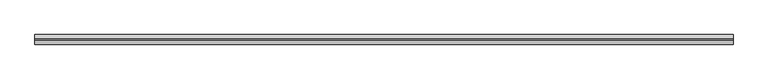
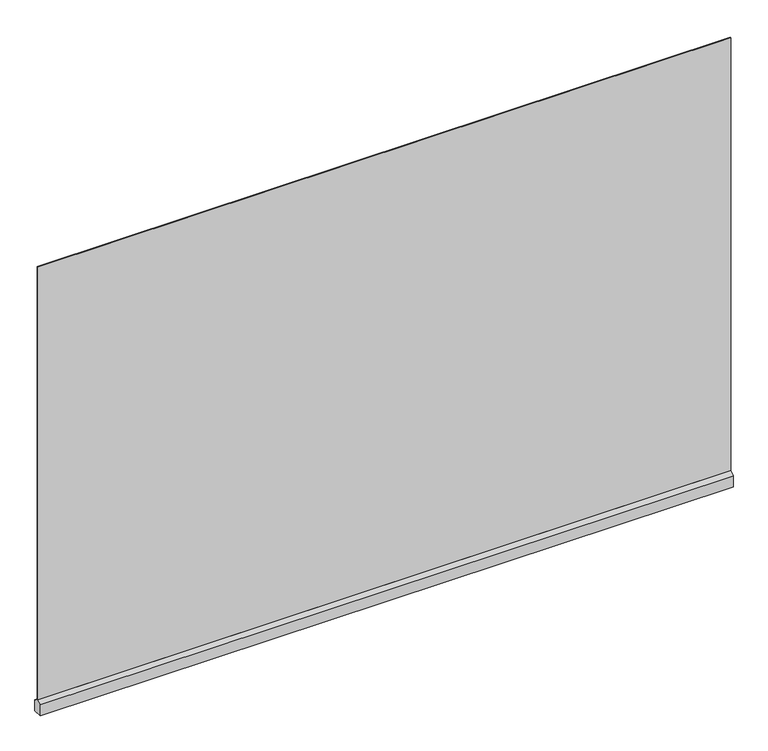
"""IFC4 building model written with IfcOpenShell, lengths in millimetres: proxy geometry, Renson_Amani_Fixscreen : Renson_Amani_Fixscreen."""

import ifcopenshell
import ifcopenshell.guid

model = None  # the IFC model being written
_history = None  # IfcOwnerHistory: only IFC2X3 demands one
_inside = {}  # id of a spatial element -> (the spatial element, [elements in it])
_under = {}  # id of a project, library or spatial element -> (it, [spatial elements below it])
_declared = {}  # id of a project -> (the project, [libraries it declares])
_typed = {}  # id of a type object -> (the type object, [elements of that type])
_made_of = {}  # id of a material, layer set ... -> (it, [elements and type objects made of it])


def new_model(schema):
    """Start an empty IFC model of exactly this schema.

    Asked for "IFC4X3", IfcOpenShell would pick the latest addendum, in which some entities
    have other attributes; the version numbers below select the first issue.
    IFC2X3 requires an IfcOwnerHistory on every rooted entity: one is made here for all.
    """
    global model, _history
    if schema == "IFC4X3":
        model = ifcopenshell.file(schema_version=(4, 3, 0, 0))
    else:
        model = ifcopenshell.file(schema=schema)
    _inside.clear()
    _under.clear()
    _declared.clear()
    _typed.clear()
    _made_of.clear()
    _history = None
    if model.schema == "IFC2X3":
        org = make("IfcOrganization", Name="unknown")
        user = make(
            "IfcPersonAndOrganization",
            ThePerson=make("IfcPerson", FamilyName="unknown"),
            TheOrganization=org,
        )
        app = make(
            "IfcApplication",
            ApplicationDeveloper=org,
            Version="unknown",
            ApplicationFullName="unknown",
            ApplicationIdentifier="unknown",
        )
        _history = make(
            "IfcOwnerHistory",
            OwningUser=user,
            OwningApplication=app,
            ChangeAction="ADDED",
            CreationDate=0,
        )
    return model


def make(cls, **values):
    """One entity of the class cls with the attributes given. An attribute that is None is left unset."""
    return model.create_entity(
        cls, **{name: value for name, value in values.items() if value is not None}
    )


def rooted(cls, **values):
    """An entity with a GlobalId (a new one), such as an element, a storey or a relation."""
    return make(cls, GlobalId=ifcopenshell.guid.new(), OwnerHistory=_history, **values)


def si_unit(unit_type, name, prefix=None):
    """IfcSIUnit, for example si_unit("LENGTHUNIT", "METRE", prefix="MILLI")."""
    return make("IfcSIUnit", UnitType=unit_type, Prefix=prefix, Name=name)


def assignment(units):
    """IfcUnitAssignment: the units of a project."""
    return None if units is None else make("IfcUnitAssignment", Units=units)


def point(xyz):
    """IfcCartesianPoint."""
    return None if xyz is None else make("IfcCartesianPoint", Coordinates=xyz)


def direction(xyz):
    """IfcDirection."""
    return None if xyz is None else make("IfcDirection", DirectionRatios=xyz)


def frame(location, z_axis=None, x_axis=None):
    """IfcAxis2Placement3D, a coordinate frame: its origin and axes. An axis left out is left unset."""
    return make(
        "IfcAxis2Placement3D",
        Location=point(location),
        Axis=direction(z_axis),
        RefDirection=direction(x_axis),
    )


def origin():
    """The frame at (0, 0, 0) with its axes left unset."""
    return frame((0.0, 0.0, 0.0))


def place(relative_to, where):
    """IfcLocalPlacement: puts the frame where relative to a parent placement (None: the world)."""
    return make(
        "IfcLocalPlacement", PlacementRelTo=relative_to, RelativePlacement=where
    )


def context(
    kind, dimensions, precision=None, world=None, true_north=None, identifier=None
):
    """IfcGeometricRepresentationContext, for example the 3D "Model" context."""
    return make(
        "IfcGeometricRepresentationContext",
        ContextIdentifier=identifier,
        ContextType=kind,
        CoordinateSpaceDimension=dimensions,
        Precision=precision,
        WorldCoordinateSystem=world,
        TrueNorth=true_north,
    )


def project(units=None, contexts=None):
    """IfcProject with its units and contexts."""
    return rooted(
        "IfcProject",
        Name="project",
        RepresentationContexts=contexts,
        UnitsInContext=assignment(units),
    )


def spatial(cls, under=None, at=None, **own):
    """A site, building, storey or space (cls), placed at a placement, below another one or the project."""
    s = rooted(cls, ObjectPlacement=at, **own)
    if under is not None:
        _under.setdefault(under.id(), (under, []))[1].append(s)
    return s


def polyline(points):
    """IfcPolyline through the points."""
    return make("IfcPolyline", Points=[point(p) for p in points])


def outline(outer, holes=None, kind="AREA"):
    """IfcArbitraryClosedProfileDef: a profile drawn as a closed curve; with holes, ...WithVoids."""
    if holes is None:
        return make("IfcArbitraryClosedProfileDef", ProfileType=kind, OuterCurve=outer)
    return make(
        "IfcArbitraryProfileDefWithVoids",
        ProfileType=kind,
        OuterCurve=outer,
        InnerCurves=holes,
    )


def extrude(swept, where, along, depth):
    """IfcExtrudedAreaSolid: the profile swept, set in the frame where, extruded along a direction by depth."""
    return make(
        "IfcExtrudedAreaSolid",
        SweptArea=swept,
        Position=where,
        ExtrudedDirection=direction(along),
        Depth=depth,
    )


def shape(context_of_items, identifier, shape_type, items):
    """IfcShapeRepresentation: the items that make up one representation, for example the "Body"."""
    return make(
        "IfcShapeRepresentation",
        ContextOfItems=context_of_items,
        RepresentationIdentifier=identifier,
        RepresentationType=shape_type,
        Items=items,
    )


def source(mapping_origin, context_of_items, identifier, shape_type, items):
    """IfcRepresentationMap: a shape defined once, which mapped items show again and again."""
    return make(
        "IfcRepresentationMap",
        MappingOrigin=mapping_origin,
        MappedRepresentation=shape(context_of_items, identifier, shape_type, items),
    )


def transform(
    local_origin,
    x_axis=None,
    y_axis=None,
    z_axis=None,
    scale=None,
    scale2=None,
    scale3=None,
    uniform=True,
):
    """IfcCartesianTransformationOperator3D, or its non-uniform kind. x_axis, y_axis, z_axis: its Axis1, 2, 3."""
    if uniform:
        return make(
            "IfcCartesianTransformationOperator3D",
            Axis1=direction(x_axis),
            Axis2=direction(y_axis),
            LocalOrigin=point(local_origin),
            Scale=scale,
            Axis3=direction(z_axis),
        )
    return make(
        "IfcCartesianTransformationOperator3DnonUniform",
        Axis1=direction(x_axis),
        Axis2=direction(y_axis),
        LocalOrigin=point(local_origin),
        Scale=scale,
        Axis3=direction(z_axis),
        Scale2=scale2,
        Scale3=scale3,
    )


def mapped(mapping_source, mapping_target):
    """IfcMappedItem: shows the shape of a source again, moved by a transform."""
    return make(
        "IfcMappedItem", MappingSource=mapping_source, MappingTarget=mapping_target
    )


def made_of(thing, what):
    """Note that an element or type object is made of a material, layer set ...; save() writes the relation."""
    if what is not None:
        _made_of.setdefault(what.id(), (what, []))[1].append(thing)
    return thing


def element(
    cls,
    number,
    at=None,
    inside=None,
    cuts=None,
    type_object=None,
    material=None,
    context=None,
    identifier="Body",
    shape_type=None,
    held_by="IfcProductDefinitionShape",
    body=None,
    shapes=None,
    **own,
):
    """One element of the class cls, such as IfcWall. Its Tag is "e" and its number.

    at: its placement. inside: the storey or other place that contains it. cuts: it is an
    opening in that element (IfcRelVoidsElement). A single representation is given by context,
    identifier, shape_type and body (its items); several are given by shapes. held_by: the class
    of the entity that holds the representations. save() writes the other relations.
    """
    e = rooted(cls, Tag="e%d" % number, ObjectPlacement=at, **own)
    if body is not None:
        shapes = [shape(context, identifier, shape_type, body)]
    if shapes is not None:
        e.Representation = make(held_by, Representations=shapes)
    if inside is not None:
        _inside.setdefault(inside.id(), (inside, []))[1].append(e)
    if cuts is not None:
        rooted(
            "IfcRelVoidsElement", RelatingBuildingElement=cuts, RelatedOpeningElement=e
        )
    if type_object is not None:
        _typed.setdefault(type_object.id(), (type_object, []))[1].append(e)
    return made_of(e, material)


def aggregate(whole, parts):
    """IfcRelAggregates: a whole, such as a stair, and the parts it consists of."""
    return rooted("IfcRelAggregates", RelatingObject=whole, RelatedObjects=parts)


def save(model, path):
    """Write the relations noted so far, then the file.

    IfcRelAggregates (storeys below a building ...), IfcRelContainedInSpatialStructure (elements
    in a storey), IfcRelDefinesByType, IfcRelAssociatesMaterial and IfcRelDeclares: one each for
    every whole, place, type object, material and project.
    """
    for whole, parts in _under.values():
        aggregate(whole, parts)
    for where, things in _inside.values():
        rooted(
            "IfcRelContainedInSpatialStructure",
            RelatedElements=things,
            RelatingStructure=where,
        )
    for kind, things in _typed.values():
        rooted("IfcRelDefinesByType", RelatedObjects=things, RelatingType=kind)
    for what, things in _made_of.values():
        rooted("IfcRelAssociatesMaterial", RelatedObjects=things, RelatingMaterial=what)
    for by, libraries in _declared.values():
        rooted("IfcRelDeclares", RelatingContext=by, RelatedDefinitions=libraries)
    model.write(path)


def generic_models_30834988(model_context):
    return source(origin(), model_context, "Body", "SweptSolid", [
        extrude(outline(polyline([(-15.0, 750.0), (-15.0, 787.0), (-1.5, 796.0), (1.5, 796.0), (15.0, 787.0), (15.0, 750.0), (-15.0, 750.0)])), frame((-1100.0, 0.0, 0.0), z_axis=(1.0, 0.0, 0.0), x_axis=(0.0, 1.0, 0.0)), (0.0, 0.0, 1.0), 2200.0),
        extrude(outline(polyline([(1100.0, 1.5), (1100.0, -1.5), (-1100.0, -1.5), (-1100.0, 1.5), (1100.0, 1.5)])), frame((0.0, 0.0, 796.0), z_axis=(0.0, 0.0, 1.0), x_axis=(1.0, 0.0, 0.0)), (0.0, 0.0, 1.0), 1454.0),
    ])


if __name__ == "__main__":
    model = new_model("IFC4")
    model_context = context("Model", 3, world=origin())
    ifc_project = project(units=[si_unit("LENGTHUNIT", "METRE", prefix="MILLI")], contexts=[model_context])
    site = spatial("IfcSite", under=ifc_project)
    building = spatial("IfcBuilding", under=site)
    placement = place(None, origin())
    generic_models_shape = generic_models_30834988(model_context)
    element("IfcBuildingElementProxy", 1, Name="Renson_Amani_Fixscreen : Renson_Amani_Fixscreen", ObjectType="Renson_Amani_Fixscreen : Renson_Amani_Fixscreen", at=placement, inside=building, context=model_context, shape_type="MappedRepresentation", body=[
        mapped(generic_models_shape, transform((0.0, 0.0, 0.0), x_axis=(1.0, 0.0, 0.0), y_axis=(0.0, 1.0, 0.0), z_axis=(0.0, 0.0, 1.0))),
    ])
    save(model, "model.ifc")
